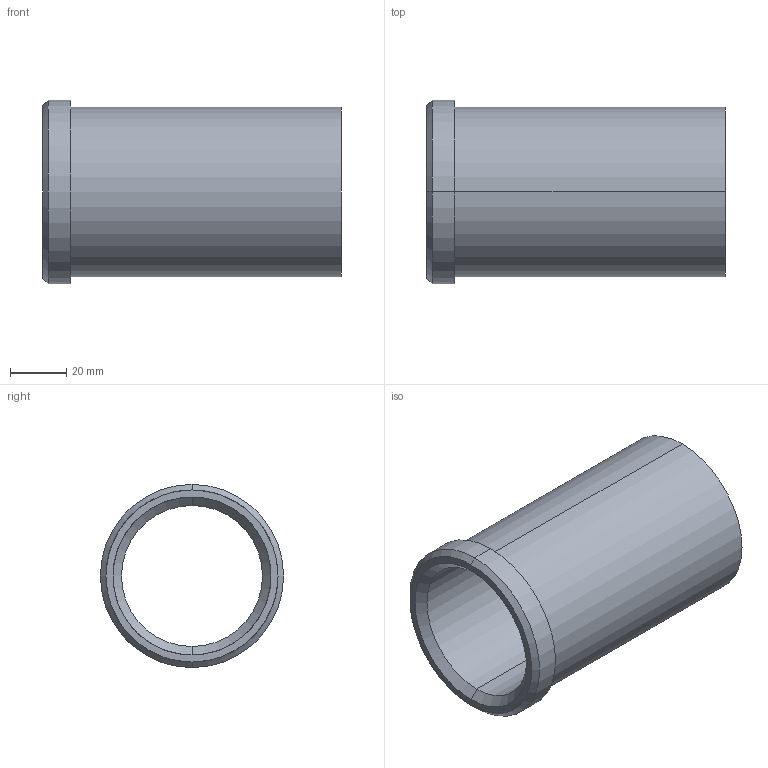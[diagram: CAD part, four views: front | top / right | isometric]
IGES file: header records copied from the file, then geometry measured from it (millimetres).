
Start section: START RECORD GO HERE.
Global section: file name: 353-50X106.igs; native system: DASSAULT SYSTEMES CATIA V5 R20 - www.3ds.com; preprocessor: CATIA Version 5 Release 20 ; author: Utente; organization: NB04-ASUS; date: 20210514.152155; units: millimetre
Bounding box: 106 x 65 x 65 mm (x, y, z)
Surface area: 38855.8 mm2 (no closed solid volume)
Topology: 0 solids, 0 shells, 15 faces, 96 edges, 96 vertices
Faces by surface type: revolution 12, plane 3
